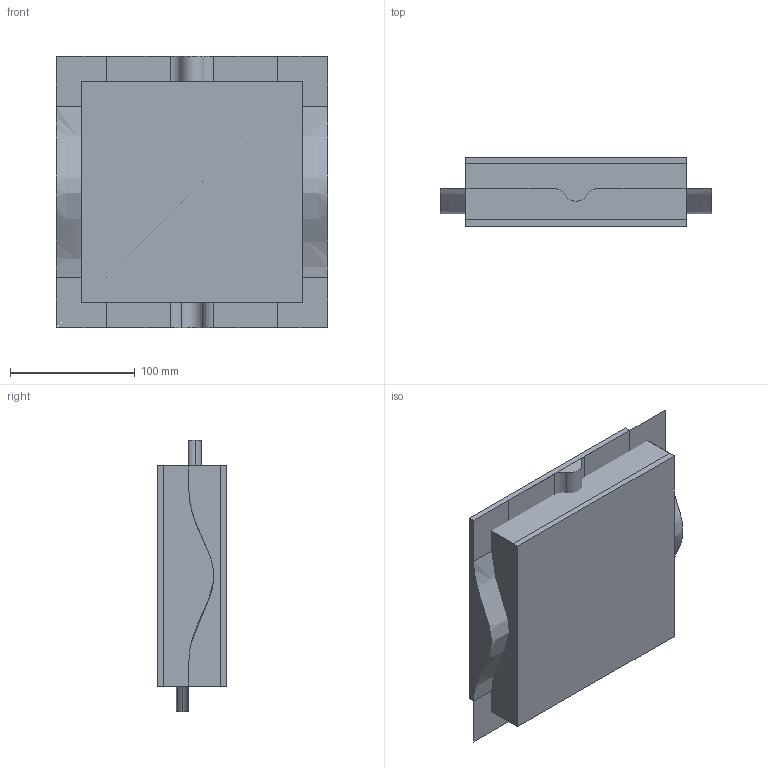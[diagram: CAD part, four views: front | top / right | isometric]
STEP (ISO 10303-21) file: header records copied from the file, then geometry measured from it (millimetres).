
FILE_DESCRIPTION(('CATIA V5 STEP Exchange'),'2;1');
FILE_NAME('C:\_Andres\UNIVERSIDAD\IQS\ASIGNATURAS\DAO\EXF\EXF-16172c\2inicio\Garcia_Granada_Ej02_v37.stp','2017-03-05T15:45:43+00:00',('none'),('none'),'CATIA Version 5-6 Release 2014 SP1 HF18','CATIA V5 STEP AP203','none');
FILE_SCHEMA(('CONFIG_CONTROL_DESIGN'));
Length unit declared in the file: millimetre
Products named in the file (1): Garcia_Granada_Ej02_v37
Bounding box: 217 x 55 x 217 mm (x, y, z)
Surface area: 308270.9 mm2
Topology: 3 solids, 10 shells, 72 faces, 205 edges, 150 vertices
Faces by surface type: bspline 32, plane 32, cylinder 6, extrusion 2
Entity records: 5756 total; most frequent: CARTESIAN_POINT 4439, ORIENTED_EDGE 288, DIRECTION 151, EDGE_CURVE 132, VERTEX_POINT 84, VECTOR 77, LINE 75, ADVANCED_FACE 72
